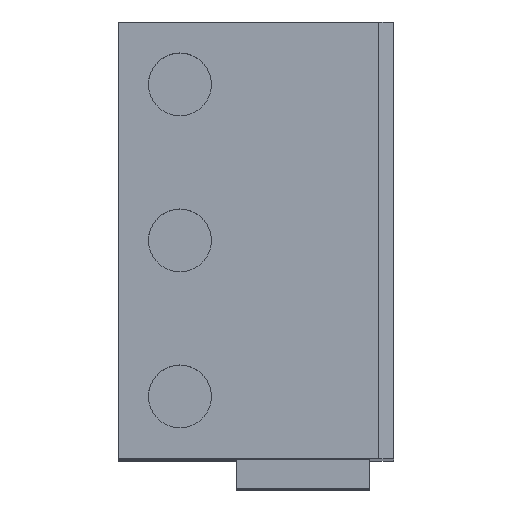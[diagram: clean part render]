
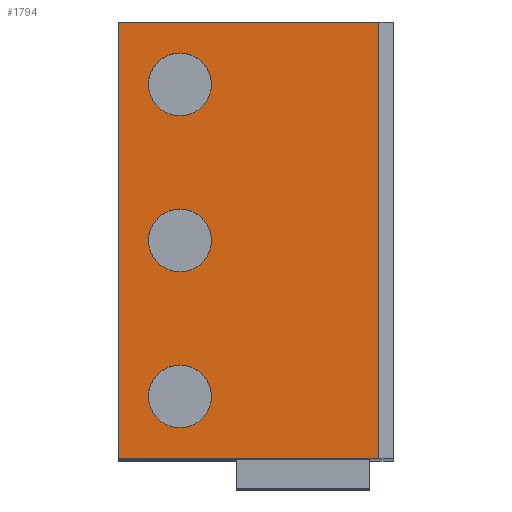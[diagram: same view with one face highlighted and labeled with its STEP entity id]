
A CAD part, top view. The second image highlights one B-rep face of the part: STEP entity #1794.
In plain terms, the highlighted planar face has unit normal (0, 0, 1).
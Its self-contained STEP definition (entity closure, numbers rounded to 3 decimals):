
#32 = PLANE('',#33);
#33 = AXIS2_PLACEMENT_3D('',#34,#35,#36);
#34 = CARTESIAN_POINT('',(137.6,0.,0.));
#35 = DIRECTION('',(0.,1.,0.));
#36 = DIRECTION('',(0.,0.,1.));
#617 = VERTEX_POINT('',#618);
#618 = CARTESIAN_POINT('',(112.,0.,140.));
#632 = PLANE('',#633);
#633 = AXIS2_PLACEMENT_3D('',#634,#635,#636);
#634 = CARTESIAN_POINT('',(112.,0.,126.));
#635 = DIRECTION('',(1.,0.,0.));
#636 = DIRECTION('',(0.,0.,1.));
#644 = EDGE_CURVE('',#645,#617,#647,.T.);
#645 = VERTEX_POINT('',#646);
#646 = CARTESIAN_POINT('',(138.5,0.,140.));
#647 = SURFACE_CURVE('',#648,(#652,#659),.PCURVE_S1.);
#648 = LINE('',#649,#650);
#649 = CARTESIAN_POINT('',(140.,0.,140.));
#650 = VECTOR('',#651,1.);
#651 = DIRECTION('',(-1.,0.,0.));
#652 = PCURVE('',#32,#653);
#653 = DEFINITIONAL_REPRESENTATION('',(#654),#658);
#654 = LINE('',#655,#656);
#655 = CARTESIAN_POINT('',(140.,2.4));
#656 = VECTOR('',#657,1.);
#657 = DIRECTION('',(0.,-1.));
#658 = ( GEOMETRIC_REPRESENTATION_CONTEXT(2) 
PARAMETRIC_REPRESENTATION_CONTEXT() REPRESENTATION_CONTEXT('2D SPACE',''
  ) );
#659 = PCURVE('',#660,#665);
#660 = PLANE('',#661);
#661 = AXIS2_PLACEMENT_3D('',#662,#663,#664);
#662 = CARTESIAN_POINT('',(137.6,0.,140.));
#663 = DIRECTION('',(0.,0.,1.));
#664 = DIRECTION('',(1.,0.,0.));
#665 = DEFINITIONAL_REPRESENTATION('',(#666),#670);
#666 = LINE('',#667,#668);
#667 = CARTESIAN_POINT('',(2.4,0.));
#668 = VECTOR('',#669,1.);
#669 = DIRECTION('',(-1.,0.));
#670 = ( GEOMETRIC_REPRESENTATION_CONTEXT(2) 
PARAMETRIC_REPRESENTATION_CONTEXT() REPRESENTATION_CONTEXT('2D SPACE',''
  ) );
#687 = PLANE('',#688);
#688 = AXIS2_PLACEMENT_3D('',#689,#690,#691);
#689 = CARTESIAN_POINT('',(137.5,-1.,141.));
#690 = DIRECTION('',(-0.707,-0.,-0.707));
#691 = DIRECTION('',(0.707,0.,-0.707));
#1092 = PLANE('',#1093);
#1093 = AXIS2_PLACEMENT_3D('',#1094,#1095,#1096);
#1094 = CARTESIAN_POINT('',(137.6,44.45,0.));
#1095 = DIRECTION('',(0.,1.,0.));
#1096 = DIRECTION('',(0.,0.,1.));
#1708 = EDGE_CURVE('',#1709,#645,#1711,.T.);
#1709 = VERTEX_POINT('',#1710);
#1710 = CARTESIAN_POINT('',(138.5,44.45,140.));
#1711 = SURFACE_CURVE('',#1712,(#1716,#1722),.PCURVE_S1.);
#1712 = LINE('',#1713,#1714);
#1713 = CARTESIAN_POINT('',(138.5,-0.5,140.));
#1714 = VECTOR('',#1715,1.);
#1715 = DIRECTION('',(0.,-1.,0.));
#1716 = PCURVE('',#687,#1717);
#1717 = DEFINITIONAL_REPRESENTATION('',(#1718),#1721);
#1718 = B_SPLINE_CURVE_WITH_KNOTS('',1,(#1719,#1720),.UNSPECIFIED.,.F.,
  .F.,(2,2),(-44.95,-0.5),.PIECEWISE_BEZIER_KNOTS.);
#1719 = CARTESIAN_POINT('',(1.414,-45.45));
#1720 = CARTESIAN_POINT('',(1.414,-1.));
#1721 = ( GEOMETRIC_REPRESENTATION_CONTEXT(2) 
PARAMETRIC_REPRESENTATION_CONTEXT() REPRESENTATION_CONTEXT('2D SPACE',''
  ) );
#1722 = PCURVE('',#660,#1723);
#1723 = DEFINITIONAL_REPRESENTATION('',(#1724),#1727);
#1724 = B_SPLINE_CURVE_WITH_KNOTS('',1,(#1725,#1726),.UNSPECIFIED.,.F.,
  .F.,(2,2),(-44.95,-0.5),.PIECEWISE_BEZIER_KNOTS.);
#1725 = CARTESIAN_POINT('',(0.9,44.45));
#1726 = CARTESIAN_POINT('',(0.9,0.));
#1727 = ( GEOMETRIC_REPRESENTATION_CONTEXT(2) 
PARAMETRIC_REPRESENTATION_CONTEXT() REPRESENTATION_CONTEXT('2D SPACE',''
  ) );
#1794 = ADVANCED_FACE('',(#1795,#1843,#1878,#1913),#660,.T.);
#1795 = FACE_BOUND('',#1796,.T.);
#1796 = EDGE_LOOP('',(#1797,#1798,#1821,#1842));
#1797 = ORIENTED_EDGE('',*,*,#1708,.F.);
#1798 = ORIENTED_EDGE('',*,*,#1799,.T.);
#1799 = EDGE_CURVE('',#1709,#1800,#1802,.T.);
#1800 = VERTEX_POINT('',#1801);
#1801 = CARTESIAN_POINT('',(112.,44.45,140.));
#1802 = SURFACE_CURVE('',#1803,(#1807,#1814),.PCURVE_S1.);
#1803 = LINE('',#1804,#1805);
#1804 = CARTESIAN_POINT('',(140.,44.45,140.));
#1805 = VECTOR('',#1806,1.);
#1806 = DIRECTION('',(-1.,0.,0.));
#1807 = PCURVE('',#660,#1808);
#1808 = DEFINITIONAL_REPRESENTATION('',(#1809),#1813);
#1809 = LINE('',#1810,#1811);
#1810 = CARTESIAN_POINT('',(2.4,44.45));
#1811 = VECTOR('',#1812,1.);
#1812 = DIRECTION('',(-1.,0.));
#1813 = ( GEOMETRIC_REPRESENTATION_CONTEXT(2) 
PARAMETRIC_REPRESENTATION_CONTEXT() REPRESENTATION_CONTEXT('2D SPACE',''
  ) );
#1814 = PCURVE('',#1092,#1815);
#1815 = DEFINITIONAL_REPRESENTATION('',(#1816),#1820);
#1816 = LINE('',#1817,#1818);
#1817 = CARTESIAN_POINT('',(140.,2.4));
#1818 = VECTOR('',#1819,1.);
#1819 = DIRECTION('',(0.,-1.));
#1820 = ( GEOMETRIC_REPRESENTATION_CONTEXT(2) 
PARAMETRIC_REPRESENTATION_CONTEXT() REPRESENTATION_CONTEXT('2D SPACE',''
  ) );
#1821 = ORIENTED_EDGE('',*,*,#1822,.F.);
#1822 = EDGE_CURVE('',#617,#1800,#1823,.T.);
#1823 = SURFACE_CURVE('',#1824,(#1828,#1835),.PCURVE_S1.);
#1824 = LINE('',#1825,#1826);
#1825 = CARTESIAN_POINT('',(112.,0.,140.));
#1826 = VECTOR('',#1827,1.);
#1827 = DIRECTION('',(0.,1.,0.));
#1828 = PCURVE('',#660,#1829);
#1829 = DEFINITIONAL_REPRESENTATION('',(#1830),#1834);
#1830 = LINE('',#1831,#1832);
#1831 = CARTESIAN_POINT('',(-25.6,0.));
#1832 = VECTOR('',#1833,1.);
#1833 = DIRECTION('',(0.,1.));
#1834 = ( GEOMETRIC_REPRESENTATION_CONTEXT(2) 
PARAMETRIC_REPRESENTATION_CONTEXT() REPRESENTATION_CONTEXT('2D SPACE',''
  ) );
#1835 = PCURVE('',#632,#1836);
#1836 = DEFINITIONAL_REPRESENTATION('',(#1837),#1841);
#1837 = LINE('',#1838,#1839);
#1838 = CARTESIAN_POINT('',(14.,0.));
#1839 = VECTOR('',#1840,1.);
#1840 = DIRECTION('',(0.,-1.));
#1841 = ( GEOMETRIC_REPRESENTATION_CONTEXT(2) 
PARAMETRIC_REPRESENTATION_CONTEXT() REPRESENTATION_CONTEXT('2D SPACE',''
  ) );
#1842 = ORIENTED_EDGE('',*,*,#644,.F.);
#1843 = FACE_BOUND('',#1844,.T.);
#1844 = EDGE_LOOP('',(#1845));
#1845 = ORIENTED_EDGE('',*,*,#1846,.T.);
#1846 = EDGE_CURVE('',#1847,#1847,#1849,.T.);
#1847 = VERTEX_POINT('',#1848);
#1848 = CARTESIAN_POINT('',(121.463,6.35,140.));
#1849 = SURFACE_CURVE('',#1850,(#1855,#1866),.PCURVE_S1.);
#1850 = CIRCLE('',#1851,3.2);
#1851 = AXIS2_PLACEMENT_3D('',#1852,#1853,#1854);
#1852 = CARTESIAN_POINT('',(118.263,6.35,140.));
#1853 = DIRECTION('',(0.,0.,-1.));
#1854 = DIRECTION('',(1.,0.,0.));
#1855 = PCURVE('',#660,#1856);
#1856 = DEFINITIONAL_REPRESENTATION('',(#1857),#1865);
#1857 = ( BOUNDED_CURVE() B_SPLINE_CURVE(2,(#1858,#1859,#1860,#1861,
#1862,#1863,#1864),.UNSPECIFIED.,.T.,.F.) B_SPLINE_CURVE_WITH_KNOTS((1,2
    ,2,2,2,1),(-2.094,0.,2.094,4.189,
6.283,8.378),.UNSPECIFIED.) CURVE() 
GEOMETRIC_REPRESENTATION_ITEM() RATIONAL_B_SPLINE_CURVE((1.,0.5,1.,0.5,
1.,0.5,1.)) REPRESENTATION_ITEM('') );
#1858 = CARTESIAN_POINT('',(-16.138,6.35));
#1859 = CARTESIAN_POINT('',(-16.138,0.807));
#1860 = CARTESIAN_POINT('',(-20.938,3.579));
#1861 = CARTESIAN_POINT('',(-25.738,6.35));
#1862 = CARTESIAN_POINT('',(-20.938,9.121));
#1863 = CARTESIAN_POINT('',(-16.138,11.893));
#1864 = CARTESIAN_POINT('',(-16.138,6.35));
#1865 = ( GEOMETRIC_REPRESENTATION_CONTEXT(2) 
PARAMETRIC_REPRESENTATION_CONTEXT() REPRESENTATION_CONTEXT('2D SPACE',''
  ) );
#1866 = PCURVE('',#1867,#1872);
#1867 = CYLINDRICAL_SURFACE('',#1868,3.2);
#1868 = AXIS2_PLACEMENT_3D('',#1869,#1870,#1871);
#1869 = CARTESIAN_POINT('',(118.263,6.35,130.));
#1870 = DIRECTION('',(-0.,-0.,-1.));
#1871 = DIRECTION('',(1.,0.,0.));
#1872 = DEFINITIONAL_REPRESENTATION('',(#1873),#1877);
#1873 = LINE('',#1874,#1875);
#1874 = CARTESIAN_POINT('',(-6.283,-10.));
#1875 = VECTOR('',#1876,1.);
#1876 = DIRECTION('',(1.,-0.));
#1877 = ( GEOMETRIC_REPRESENTATION_CONTEXT(2) 
PARAMETRIC_REPRESENTATION_CONTEXT() REPRESENTATION_CONTEXT('2D SPACE',''
  ) );
#1878 = FACE_BOUND('',#1879,.T.);
#1879 = EDGE_LOOP('',(#1880));
#1880 = ORIENTED_EDGE('',*,*,#1881,.T.);
#1881 = EDGE_CURVE('',#1882,#1882,#1884,.T.);
#1882 = VERTEX_POINT('',#1883);
#1883 = CARTESIAN_POINT('',(121.463,22.225,140.));
#1884 = SURFACE_CURVE('',#1885,(#1890,#1901),.PCURVE_S1.);
#1885 = CIRCLE('',#1886,3.2);
#1886 = AXIS2_PLACEMENT_3D('',#1887,#1888,#1889);
#1887 = CARTESIAN_POINT('',(118.263,22.225,140.));
#1888 = DIRECTION('',(0.,0.,-1.));
#1889 = DIRECTION('',(1.,0.,0.));
#1890 = PCURVE('',#660,#1891);
#1891 = DEFINITIONAL_REPRESENTATION('',(#1892),#1900);
#1892 = ( BOUNDED_CURVE() B_SPLINE_CURVE(2,(#1893,#1894,#1895,#1896,
#1897,#1898,#1899),.UNSPECIFIED.,.T.,.F.) B_SPLINE_CURVE_WITH_KNOTS((1,2
    ,2,2,2,1),(-2.094,0.,2.094,4.189,
6.283,8.378),.UNSPECIFIED.) CURVE() 
GEOMETRIC_REPRESENTATION_ITEM() RATIONAL_B_SPLINE_CURVE((1.,0.5,1.,0.5,
1.,0.5,1.)) REPRESENTATION_ITEM('') );
#1893 = CARTESIAN_POINT('',(-16.138,22.225));
#1894 = CARTESIAN_POINT('',(-16.138,16.682));
#1895 = CARTESIAN_POINT('',(-20.938,19.454));
#1896 = CARTESIAN_POINT('',(-25.738,22.225));
#1897 = CARTESIAN_POINT('',(-20.938,24.996));
#1898 = CARTESIAN_POINT('',(-16.138,27.768));
#1899 = CARTESIAN_POINT('',(-16.138,22.225));
#1900 = ( GEOMETRIC_REPRESENTATION_CONTEXT(2) 
PARAMETRIC_REPRESENTATION_CONTEXT() REPRESENTATION_CONTEXT('2D SPACE',''
  ) );
#1901 = PCURVE('',#1902,#1907);
#1902 = CYLINDRICAL_SURFACE('',#1903,3.2);
#1903 = AXIS2_PLACEMENT_3D('',#1904,#1905,#1906);
#1904 = CARTESIAN_POINT('',(118.263,22.225,130.));
#1905 = DIRECTION('',(-0.,-0.,-1.));
#1906 = DIRECTION('',(1.,0.,0.));
#1907 = DEFINITIONAL_REPRESENTATION('',(#1908),#1912);
#1908 = LINE('',#1909,#1910);
#1909 = CARTESIAN_POINT('',(-6.283,-10.));
#1910 = VECTOR('',#1911,1.);
#1911 = DIRECTION('',(1.,-0.));
#1912 = ( GEOMETRIC_REPRESENTATION_CONTEXT(2) 
PARAMETRIC_REPRESENTATION_CONTEXT() REPRESENTATION_CONTEXT('2D SPACE',''
  ) );
#1913 = FACE_BOUND('',#1914,.T.);
#1914 = EDGE_LOOP('',(#1915));
#1915 = ORIENTED_EDGE('',*,*,#1916,.T.);
#1916 = EDGE_CURVE('',#1917,#1917,#1919,.T.);
#1917 = VERTEX_POINT('',#1918);
#1918 = CARTESIAN_POINT('',(121.463,38.1,140.));
#1919 = SURFACE_CURVE('',#1920,(#1925,#1936),.PCURVE_S1.);
#1920 = CIRCLE('',#1921,3.2);
#1921 = AXIS2_PLACEMENT_3D('',#1922,#1923,#1924);
#1922 = CARTESIAN_POINT('',(118.263,38.1,140.));
#1923 = DIRECTION('',(0.,0.,-1.));
#1924 = DIRECTION('',(1.,0.,0.));
#1925 = PCURVE('',#660,#1926);
#1926 = DEFINITIONAL_REPRESENTATION('',(#1927),#1935);
#1927 = ( BOUNDED_CURVE() B_SPLINE_CURVE(2,(#1928,#1929,#1930,#1931,
#1932,#1933,#1934),.UNSPECIFIED.,.T.,.F.) B_SPLINE_CURVE_WITH_KNOTS((1,2
    ,2,2,2,1),(-2.094,0.,2.094,4.189,
6.283,8.378),.UNSPECIFIED.) CURVE() 
GEOMETRIC_REPRESENTATION_ITEM() RATIONAL_B_SPLINE_CURVE((1.,0.5,1.,0.5,
1.,0.5,1.)) REPRESENTATION_ITEM('') );
#1928 = CARTESIAN_POINT('',(-16.138,38.1));
#1929 = CARTESIAN_POINT('',(-16.138,32.557));
#1930 = CARTESIAN_POINT('',(-20.938,35.329));
#1931 = CARTESIAN_POINT('',(-25.738,38.1));
#1932 = CARTESIAN_POINT('',(-20.938,40.871));
#1933 = CARTESIAN_POINT('',(-16.138,43.643));
#1934 = CARTESIAN_POINT('',(-16.138,38.1));
#1935 = ( GEOMETRIC_REPRESENTATION_CONTEXT(2) 
PARAMETRIC_REPRESENTATION_CONTEXT() REPRESENTATION_CONTEXT('2D SPACE',''
  ) );
#1936 = PCURVE('',#1937,#1942);
#1937 = CYLINDRICAL_SURFACE('',#1938,3.2);
#1938 = AXIS2_PLACEMENT_3D('',#1939,#1940,#1941);
#1939 = CARTESIAN_POINT('',(118.263,38.1,130.));
#1940 = DIRECTION('',(-0.,-0.,-1.));
#1941 = DIRECTION('',(1.,0.,0.));
#1942 = DEFINITIONAL_REPRESENTATION('',(#1943),#1947);
#1943 = LINE('',#1944,#1945);
#1944 = CARTESIAN_POINT('',(-6.283,-10.));
#1945 = VECTOR('',#1946,1.);
#1946 = DIRECTION('',(1.,-0.));
#1947 = ( GEOMETRIC_REPRESENTATION_CONTEXT(2) 
PARAMETRIC_REPRESENTATION_CONTEXT() REPRESENTATION_CONTEXT('2D SPACE',''
  ) );
